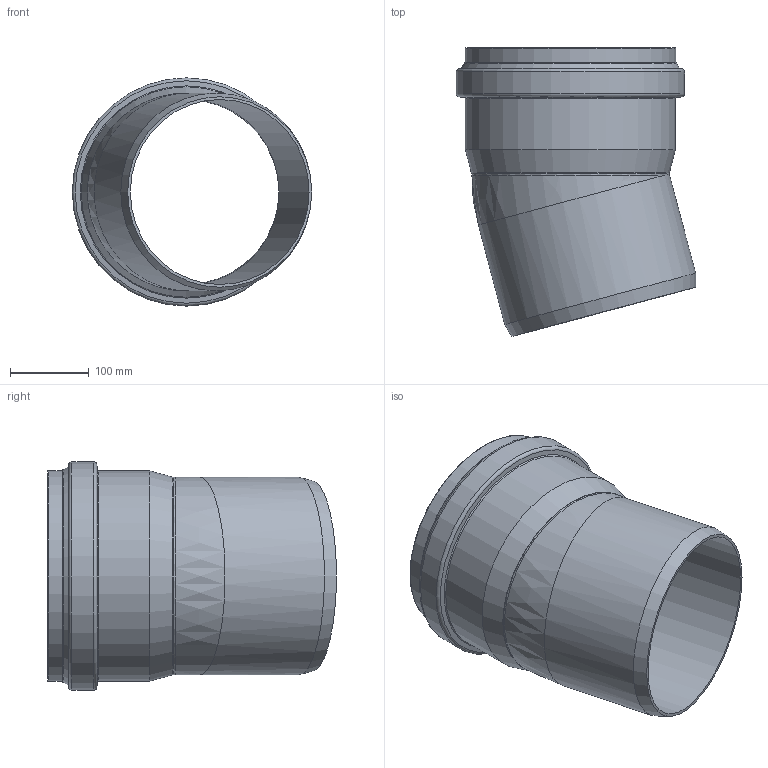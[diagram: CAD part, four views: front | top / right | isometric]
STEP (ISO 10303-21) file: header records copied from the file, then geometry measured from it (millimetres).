
FILE_DESCRIPTION(/* description */ (''),/* implementation_level */ '2;1');
FILE_NAME(/* name */ '771700z.stp',/* time_stamp */ '2026-02-06T08:24:45+01:00',/* author */ ('corinna'),/* organization */ (''),/* preprocessor_version */ 'ST-DEVELOPER v20',/* originating_system */ 'Autodesk Inventor 2024',/* authorisation */ '');
FILE_SCHEMA (('AUTOMOTIVE_DESIGN { 1 0 10303 214 3 1 1 }'));
Length unit declared in the file: millimetre
Products named in the file (1): 771700z
Bounding box: 303.12 x 365.63 x 289 mm (x, y, z)
Volume: 2167209.3 mm3; surface area: 573042.6 mm2
Topology: 1 solids, 1 shells, 42 faces, 112 edges, 71 vertices
Faces by surface type: torus 16, cylinder 11, cone 11, plane 3, bspline 1
Full cylindrical faces by diameter (mm): 234.3 x2, 250.3 x2, 251.7 x1, 252.1 x2, 266.1 x1, 266.5 x1, 274.6 x1, 289 x1
Entity records: 1415 total; most frequent: DIRECTION 282, CARTESIAN_POINT 250, ORIENTED_EDGE 220, AXIS2_PLACEMENT_3D 130, EDGE_CURVE 110, CIRCLE 86, VERTEX_POINT 71, EDGE_LOOP 45
